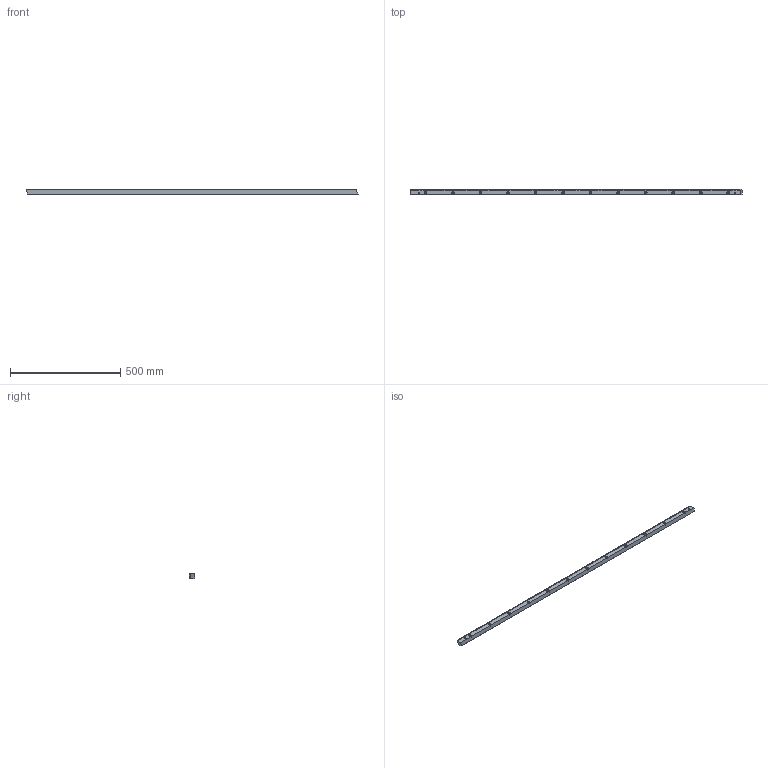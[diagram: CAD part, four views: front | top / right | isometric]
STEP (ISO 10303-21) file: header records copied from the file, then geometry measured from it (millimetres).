
FILE_DESCRIPTION (( 'STEP AP214' ), '1' );
FILE_NAME ('1HR16R020150H.STEP', '2021-12-06T11:00:39', ( '' ), ( '' ), 'SwSTEP 2.0', 'SolidWorks 2021', '' );
FILE_SCHEMA (( 'AUTOMOTIVE_DESIGN' ));
Products named in the file (1): 1HR16R020150H
Bounding box: 1508.51 x 24 x 24 mm (x, y, z)
Volume: 766188.2 mm3; surface area: 177395.4 mm2
Topology: 1 solids, 1 shells, 2373 faces, 7025 edges, 4666 vertices
Faces by surface type: plane 1369, cylinder 952, cone 52
Entity records: 77769 total; most frequent: CARTESIAN_POINT 19465, ORIENTED_EDGE 14050, DIRECTION 10129, EDGE_CURVE 7025, LINE 5069, VECTOR 5069, VERTEX_POINT 4666, AXIS2_PLACEMENT_3D 2530
